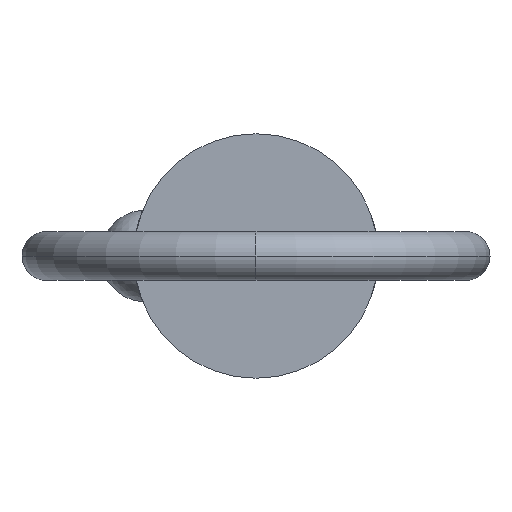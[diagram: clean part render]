
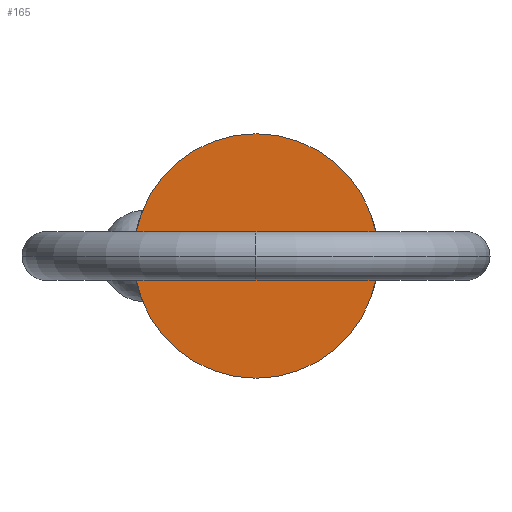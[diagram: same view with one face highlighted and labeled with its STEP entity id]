
A CAD part, left-side view. The second image highlights one B-rep face of the part: STEP entity #165.
In plain terms, the highlighted planar face has unit normal (-1, 0, 0).
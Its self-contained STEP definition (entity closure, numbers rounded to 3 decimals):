
#18 = FACE_OUTER_BOUND ( 'NONE', #38, .T. ) ;
#38 = EDGE_LOOP ( 'NONE', ( #749, #609 ) ) ;
#67 = AXIS2_PLACEMENT_3D ( 'NONE', #570, #349, #639 ) ;
#131 = AXIS2_PLACEMENT_3D ( 'NONE', #864, #224, #491 ) ;
#132 = VERTEX_POINT ( 'NONE', #788 ) ;
#165 = ADVANCED_FACE ( 'NONE', ( #18 ), #502, .T. ) ;
#175 = EDGE_CURVE ( 'NONE', #132, #180, #553, .T. ) ;
#180 = VERTEX_POINT ( 'NONE', #719 ) ;
#224 = DIRECTION ( 'NONE',  ( 1., 0., 0. ) ) ;
#260 = EDGE_CURVE ( 'NONE', #180, #132, #518, .T. ) ;
#349 = DIRECTION ( 'NONE',  ( 1., 0., 0. ) ) ;
#429 = CARTESIAN_POINT ( 'NONE',  ( 0., 0., 0. ) ) ;
#491 = DIRECTION ( 'NONE',  ( 0., 0., -1. ) ) ;
#495 = DIRECTION ( 'NONE',  ( -1., 0., 0. ) ) ;
#502 = PLANE ( 'NONE',  #827 ) ;
#506 = DIRECTION ( 'NONE',  ( 0., 0., 1. ) ) ;
#518 = CIRCLE ( 'NONE', #131, 11.115 ) ;
#553 = CIRCLE ( 'NONE', #67, 11.115 ) ;
#570 = CARTESIAN_POINT ( 'NONE',  ( 0., 0., 0. ) ) ;
#609 = ORIENTED_EDGE ( 'NONE', *, *, #175, .F. ) ;
#639 = DIRECTION ( 'NONE',  ( 0., 0., -1. ) ) ;
#719 = CARTESIAN_POINT ( 'NONE',  ( 0., 0., -11.115 ) ) ;
#749 = ORIENTED_EDGE ( 'NONE', *, *, #260, .F. ) ;
#788 = CARTESIAN_POINT ( 'NONE',  ( 0., 0., 11.115 ) ) ;
#827 = AXIS2_PLACEMENT_3D ( 'NONE', #429, #495, #506 ) ;
#864 = CARTESIAN_POINT ( 'NONE',  ( 0., 0., 0. ) ) ;
